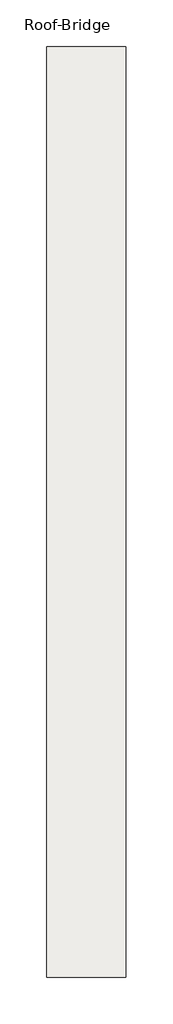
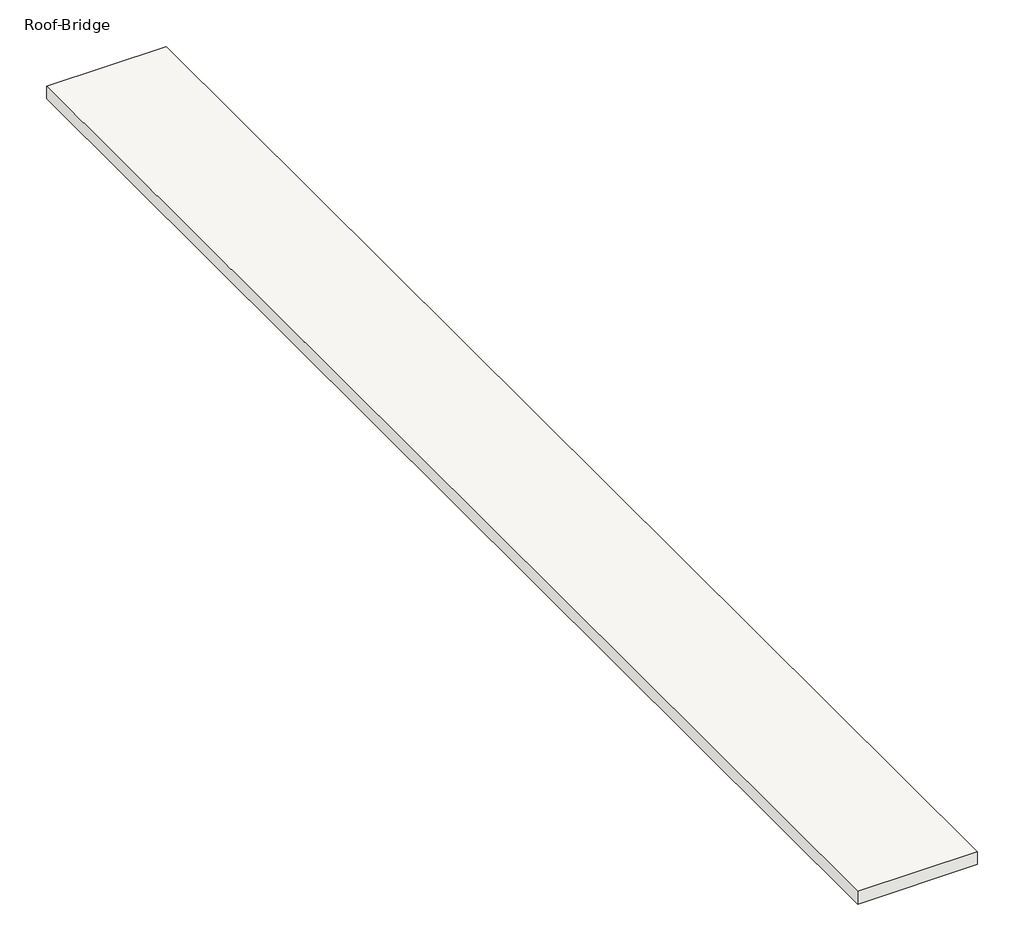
# One storey: 1 roof.
"""IFC4 building model written with IfcOpenShell, lengths in millimetres."""

from ifc_helpers import new_model, si_unit, frame, origin, place, context, project, spatial, polyline, outline, extrude, element, save

model = new_model("IFC4")

# Units and contexts
model_context = context("Model", 3, world=origin())
ifc_project = project(units=[si_unit("LENGTHUNIT", "METRE", prefix="MILLI")], contexts=[model_context])

# Site, building, storey
site = spatial("IfcSite", under=ifc_project)
building = spatial("IfcBuilding", under=site)
storey = spatial("IfcBuildingStorey", under=building, Name="Roof-Bridge", Elevation=22250.4)

# Roof
placement = place(None, origin())
element("IfcRoof", 1, ObjectType="Generic - 12\"", at=placement, inside=storey, context=model_context, shape_type="SweptSolid", body=[
    extrude(outline(polyline([(7986.4026119, 53209.036889), (10723.2526119, 53209.036889), (10723.2526119, 21134.5267299), (7986.4026119, 21134.5267299), (7986.4026119, 53209.036889)])), frame((0.0, 0.0, 21640.8), z_axis=(0.0, 0.0, 1.0), x_axis=(1.0, 0.0, 0.0)), (0.0, 0.0, 1.0), 304.8),
])

save(model, "model.ifc")
